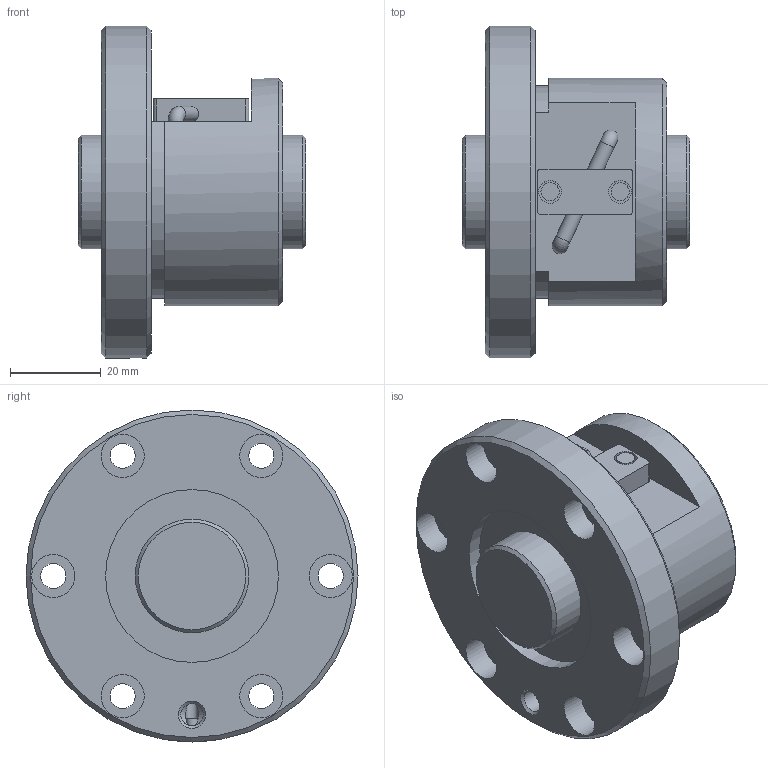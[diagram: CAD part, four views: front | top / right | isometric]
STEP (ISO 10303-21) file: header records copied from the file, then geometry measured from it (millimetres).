
FILE_DESCRIPTION(/* description */ ('STEP AP203'),/* implementation_level */ '2;1');
FILE_NAME(/* name */ 'BNF2505V-2.5RRG1+50LC0_000_rev',/* time_stamp */ '2024-08-06T07:29:07+02:00',/* author */ ('License CC BY-ND 4.0'),/* organization */ ('CADENAS'),/* preprocessor_version */ 'ST-DEVELOPER v19.3',/* originating_system */ 'PARTsolutions',/* authorisation */ ' ');
FILE_SCHEMA (('CONFIG_CONTROL_DESIGN'));
Length unit declared in the file: millimetre
Products named in the file (3): BNF2505V-2.5RRG1+50LC0_000_rev; BNF 2505-2.5RR000 Shaft; BNF 2505-2.5RR Nut
Assembly tree (2 placements, depth 2):
  BNF2505V-2.5RRG1+50LC0_000_rev
    BNF 2505-2.5RR000 Shaft
    BNF 2505-2.5RR Nut
Bounding box: 50 x 73 x 73 mm (x, y, z)
Volume: 94857.1 mm3; surface area: 25174.6 mm2
Topology: 2 solids, 2 shells, 70 faces, 152 edges, 99 vertices
Faces by surface type: cylinder 33, plane 27, cone 8, torus 2
Full cylindrical faces by diameter (mm): 2.75 x2, 3.331 x2, 4 x2, 4.917 x1, 5 x2, 5.5 x6, 9.5 x6, 25 x2, 38 x2, 50 x1, 73 x1
Entity records: 1803 total; most frequent: DIRECTION 316, CARTESIAN_POINT 313, ORIENTED_EDGE 210, AXIS2_PLACEMENT_3D 146, EDGE_LOOP 140, FACE_BOUND 140, EDGE_CURVE 105, VERTEX_POINT 89
